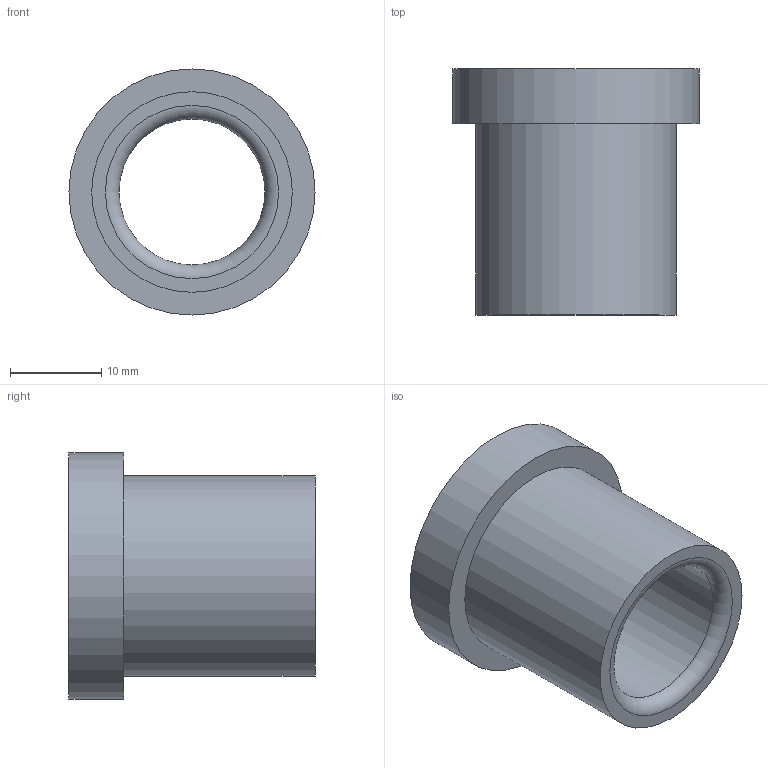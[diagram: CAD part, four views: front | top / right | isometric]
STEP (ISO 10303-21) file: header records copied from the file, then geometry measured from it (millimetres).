
FILE_DESCRIPTION(/* description */ ('STEP AP214'),/* implementation_level */ '2;1');
FILE_NAME(/* name */ '03_12_17913',/* time_stamp */ '2023-06-15T11:35:27+02:00',/* author */ ('License CC BY-ND 4.0'),/* organization */ ('CADENAS'),/* preprocessor_version */ 'ST-DEVELOPER v19.3',/* originating_system */ 'PARTsolutions',/* authorisation */ ' ');
FILE_SCHEMA (('AUTOMOTIVE_DESIGN {1 0 10303 214 3 1 1}'));
Length unit declared in the file: millimetre
Products named in the file (1): VA_Bushing_17913
Bounding box: 27 x 27 x 27 mm (x, y, z)
Volume: 5855 mm3; surface area: 4006.8 mm2
Topology: 1 solids, 1 shells, 10 faces, 16 edges, 10 vertices
Faces by surface type: cylinder 4, plane 4, torus 2
Full cylindrical faces by diameter (mm): 16 x1, 16.6 x1, 22 x1, 27 x1
Entity records: 302 total; most frequent: DIRECTION 42, CARTESIAN_POINT 31, AXIS2_PLACEMENT_3D 21, ORIENTED_EDGE 20, EDGE_LOOP 20, FACE_BOUND 20, EDGE_CURVE 10, VERTEX_POINT 10
